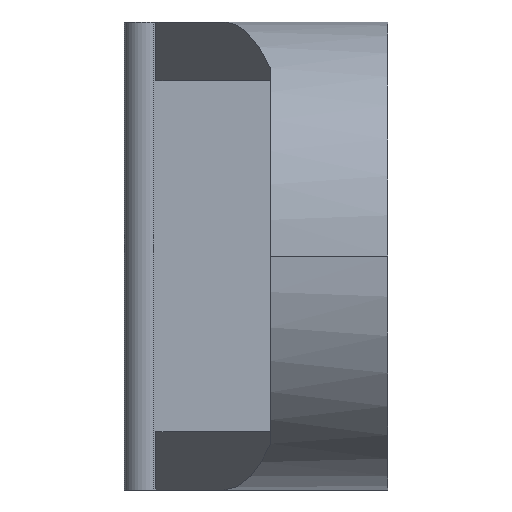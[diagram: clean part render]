
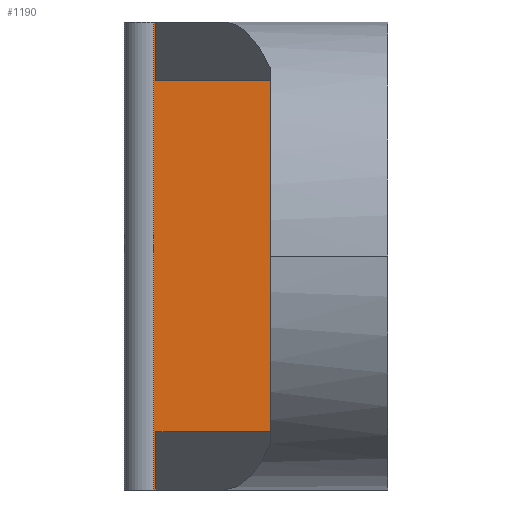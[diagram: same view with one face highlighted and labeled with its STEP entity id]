
A CAD part, left-side view. The second image highlights one B-rep face of the part: STEP entity #1190.
In plain terms, the highlighted planar face has unit normal (-1, 0, 0).
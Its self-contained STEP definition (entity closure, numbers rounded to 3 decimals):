
#42 = EDGE_CURVE ( 'NONE', #178, #1192, #812, .T. ) ;
#51 = DIRECTION ( 'NONE',  ( 0., 0., -1. ) ) ;
#91 = CARTESIAN_POINT ( 'NONE',  ( 0.413, 16., -32. ) ) ;
#139 = EDGE_LOOP ( 'NONE', ( #1446, #281, #752, #908, #872, #1305, #1486, #717 ) ) ;
#178 = VERTEX_POINT ( 'NONE', #1487 ) ;
#179 = CARTESIAN_POINT ( 'NONE',  ( 0.413, 8., -28. ) ) ;
#186 = CARTESIAN_POINT ( 'NONE',  ( 0.413, 15.84, 0. ) ) ;
#227 = DIRECTION ( 'NONE',  ( 0., 1., 0. ) ) ;
#241 = CARTESIAN_POINT ( 'NONE',  ( 0.413, 15.84, -32. ) ) ;
#262 = EDGE_CURVE ( 'NONE', #411, #1044, #531, .T. ) ;
#281 = ORIENTED_EDGE ( 'NONE', *, *, #262, .F. ) ;
#294 = VERTEX_POINT ( 'NONE', #1483 ) ;
#315 = DIRECTION ( 'NONE',  ( 0., -1., 0. ) ) ;
#411 = VERTEX_POINT ( 'NONE', #1240 ) ;
#415 = EDGE_CURVE ( 'NONE', #1070, #1192, #1477, .T. ) ;
#446 = EDGE_CURVE ( 'NONE', #294, #590, #602, .T. ) ;
#452 = AXIS2_PLACEMENT_3D ( 'NONE', #862, #764, #1230 ) ;
#453 = CARTESIAN_POINT ( 'NONE',  ( 0.413, 8., -28. ) ) ;
#479 = VECTOR ( 'NONE', #512, 1000. ) ;
#480 = VECTOR ( 'NONE', #227, 1000. ) ;
#512 = DIRECTION ( 'NONE',  ( 0., 0., 1. ) ) ;
#517 = PLANE ( 'NONE',  #452 ) ;
#531 = LINE ( 'NONE', #453, #480 ) ;
#533 = DIRECTION ( 'NONE',  ( 0., 0., 1. ) ) ;
#542 = CARTESIAN_POINT ( 'NONE',  ( 0.413, 15.84, -32. ) ) ;
#547 = FACE_OUTER_BOUND ( 'NONE', #139, .T. ) ;
#548 = DIRECTION ( 'NONE',  ( 0., 1., 0. ) ) ;
#567 = CARTESIAN_POINT ( 'NONE',  ( 0.413, 16., 0. ) ) ;
#590 = VERTEX_POINT ( 'NONE', #241 ) ;
#602 = LINE ( 'NONE', #91, #861 ) ;
#659 = DIRECTION ( 'NONE',  ( 0., -1., 0. ) ) ;
#710 = VECTOR ( 'NONE', #315, 1000. ) ;
#717 = ORIENTED_EDGE ( 'NONE', *, *, #446, .T. ) ;
#722 = VECTOR ( 'NONE', #548, 1000. ) ;
#752 = ORIENTED_EDGE ( 'NONE', *, *, #1241, .F. ) ;
#764 = DIRECTION ( 'NONE',  ( -1., 0., 0. ) ) ;
#812 = LINE ( 'NONE', #1452, #1455 ) ;
#861 = VECTOR ( 'NONE', #659, 1000. ) ;
#862 = CARTESIAN_POINT ( 'NONE',  ( 0.413, 16., -32. ) ) ;
#872 = ORIENTED_EDGE ( 'NONE', *, *, #42, .T. ) ;
#908 = ORIENTED_EDGE ( 'NONE', *, *, #1490, .T. ) ;
#1012 = LINE ( 'NONE', #1137, #722 ) ;
#1044 = VERTEX_POINT ( 'NONE', #1390 ) ;
#1070 = VERTEX_POINT ( 'NONE', #567 ) ;
#1081 = VECTOR ( 'NONE', #533, 1000. ) ;
#1137 = CARTESIAN_POINT ( 'NONE',  ( 0.413, 8., -4. ) ) ;
#1166 = EDGE_CURVE ( 'NONE', #294, #1070, #1313, .T. ) ;
#1183 = LINE ( 'NONE', #179, #1453 ) ;
#1190 = ADVANCED_FACE ( 'NONE', ( #547 ), #517, .T. ) ;
#1192 = VERTEX_POINT ( 'NONE', #186 ) ;
#1216 = DIRECTION ( 'NONE',  ( 0., 0., 1. ) ) ;
#1230 = DIRECTION ( 'NONE',  ( 0., -1., 0. ) ) ;
#1240 = CARTESIAN_POINT ( 'NONE',  ( 0.413, 8., -28. ) ) ;
#1241 = EDGE_CURVE ( 'NONE', #1276, #411, #1183, .T. ) ;
#1276 = VERTEX_POINT ( 'NONE', #1358 ) ;
#1305 = ORIENTED_EDGE ( 'NONE', *, *, #415, .F. ) ;
#1313 = LINE ( 'NONE', #1323, #479 ) ;
#1323 = CARTESIAN_POINT ( 'NONE',  ( 0.413, 16., -32. ) ) ;
#1358 = CARTESIAN_POINT ( 'NONE',  ( 0.413, 8., -4. ) ) ;
#1390 = CARTESIAN_POINT ( 'NONE',  ( 0.413, 15.84, -28. ) ) ;
#1446 = ORIENTED_EDGE ( 'NONE', *, *, #1470, .T. ) ;
#1452 = CARTESIAN_POINT ( 'NONE',  ( 0.413, 15.84, -32. ) ) ;
#1453 = VECTOR ( 'NONE', #51, 1000. ) ;
#1455 = VECTOR ( 'NONE', #1216, 1000. ) ;
#1470 = EDGE_CURVE ( 'NONE', #590, #1044, #1518, .T. ) ;
#1477 = LINE ( 'NONE', #1479, #710 ) ;
#1479 = CARTESIAN_POINT ( 'NONE',  ( 0.413, 16., 0. ) ) ;
#1483 = CARTESIAN_POINT ( 'NONE',  ( 0.413, 16., -32. ) ) ;
#1486 = ORIENTED_EDGE ( 'NONE', *, *, #1166, .F. ) ;
#1487 = CARTESIAN_POINT ( 'NONE',  ( 0.413, 15.84, -4. ) ) ;
#1490 = EDGE_CURVE ( 'NONE', #1276, #178, #1012, .T. ) ;
#1518 = LINE ( 'NONE', #542, #1081 ) ;
